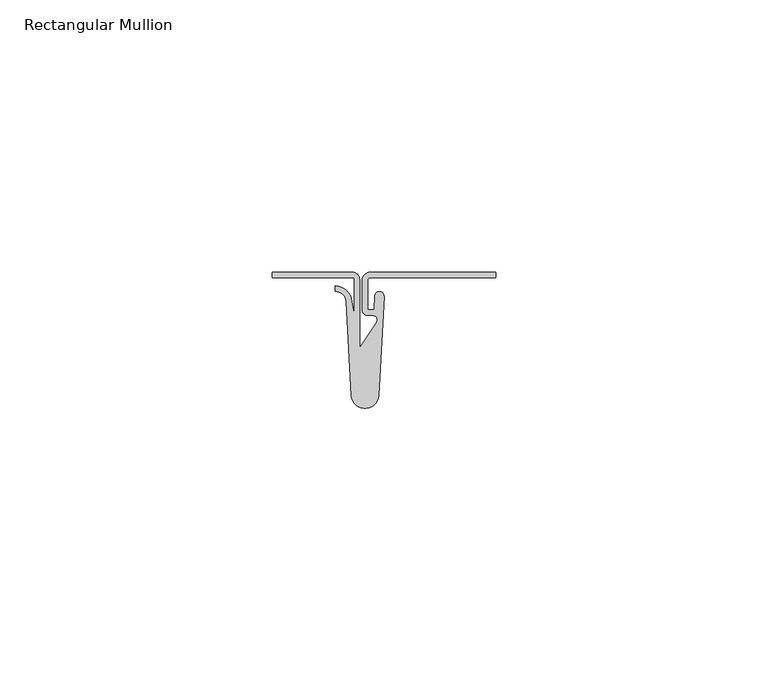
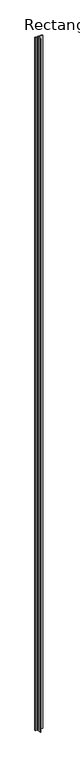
"""IFC4 building model written with IfcOpenShell, lengths in millimetres: member geometry, Rectangular Mullion : Stratco_Hiland_Tray Snaplock_25mm Rib_Underlap Tray Starter."""

from ifc_helpers import new_model, si_unit, point, frame, frame_2d, origin, place, context, project, spatial, polyline, circle_curve, trimmed, segment, composite_curve, outline, extrude, source, transform, mapped, element, save


def rectangular_mullion_c3758931(model_context):
    return source(origin(), model_context, "Body", "SweptSolid", [
        extrude(outline(composite_curve([segment(polyline([(-23.4987771, -6.8829629), (-22.2697109, -6.8829629), (-22.1929008, -4.3462781)]), True, "CONTINUOUS"), segment(trimmed(circle_curve(frame_2d((-21.3413568, -4.3720626)), 0.8519342), [point((-22.1929008, -4.3462781))], [point((-20.4898618, -4.3994153))], False, "CARTESIAN"), True, "CONTINUOUS"), segment(polyline([(-20.4898618, -4.3994153), (-21.4929799, -22.626652)]), True, "CONTINUOUS"), segment(trimmed(circle_curve(frame_2d((-24.0016605, -22.4875132)), 2.5125361), [point((-21.4929799, -22.626652))], [point((-26.5103411, -22.626652))], False, "CARTESIAN"), True, "CONTINUOUS"), segment(polyline([(-26.5103411, -22.626652), (-27.4660425, -5.3953045)]), True, "CONTINUOUS"), segment(trimmed(circle_curve(frame_2d((-29.4633003, -5.5)), 2.0), [point((-27.4660425, -5.3953045))], [point((-29.4633003, -3.5))], True, "CARTESIAN"), True, "CONTINUOUS"), segment(polyline([(-29.4633003, -3.5), (-29.4633003, -2.5)]), True, "CONTINUOUS"), segment(trimmed(circle_curve(frame_2d((-29.4633003, -5.5)), 3.0), [point((-29.4633003, -2.5))], [point((-26.4668368, -5.3543763))], False, "CARTESIAN"), True, "CONTINUOUS"), segment(polyline([(-26.4668368, -5.3543763), (-25.9762329, -7.8734664), (-25.9762329, -0.9999512), (-41.0016605, -0.9999512), (-41.0016605, 4.88e-05), (-26.303797, 4.88e-05)]), True, "CONTINUOUS"), segment(trimmed(circle_curve(frame_2d((-26.303797, -1.3275108)), 1.3275596), [point((-26.303797, 4.88e-05))], [point((-24.9762373, -1.3275288))], False, "CARTESIAN"), True, "CONTINUOUS"), segment(polyline([(-24.9762373, -1.3275288), (-24.9764076, -13.8708983), (-21.8636662, -9.1419522)]), True, "CONTINUOUS"), segment(trimmed(circle_curve(frame_2d((-22.52688, -8.705404)), 0.7939942), [point((-21.8636662, -9.1419522))], [point((-22.52688, -7.9114098))], True, "CARTESIAN"), True, "CONTINUOUS"), segment(polyline([(-22.52688, -7.9114098), (-23.4435917, -7.9114098)]), True, "CONTINUOUS"), segment(trimmed(circle_curve(frame_2d((-23.4435917, -6.8533411)), 1.0580688), [point((-23.4435917, -7.9114098))], [point((-24.4989611, -6.9288725))], False, "CARTESIAN"), True, "CONTINUOUS"), segment(polyline([(-24.4989611, -6.9288725), (-24.4989611, -1.4973006)]), True, "CONTINUOUS"), segment(trimmed(circle_curve(frame_2d((-23.0016605, -1.4973006)), 1.4973006), [point((-24.4989611, -1.4973006))], [point((-23.0016605, 0.0))], False, "CARTESIAN"), True, "CONTINUOUS"), segment(polyline([(-23.0016605, 0.0), (0.0, 0.0), (0.0, -1.0000001), (-23.0016605, -1.0000001)]), True, "CONTINUOUS"), segment(trimmed(circle_curve(frame_2d((-23.0016605, -1.4971168)), 0.4971167), [point((-23.0016605, -1.0000001))], [point((-23.4987771, -1.4971168))], True, "CARTESIAN"), True, "CONTINUOUS"), segment(polyline([(-23.4987771, -1.4971168), (-23.4987771, -6.8829629)]), True, "CONTINUOUS")], self_intersect=False)), frame((0.0, 0.0, -4000.0), z_axis=(0.0, 0.0, 1.0), x_axis=(1.0, 0.0, 0.0)), (0.0, 0.0, 1.0), 4000.0),
    ])


if __name__ == "__main__":
    model = new_model("IFC4")
    model_context = context("Model", 3, world=origin())
    ifc_project = project(units=[si_unit("LENGTHUNIT", "METRE", prefix="MILLI")], contexts=[model_context])
    site = spatial("IfcSite", under=ifc_project)
    building = spatial("IfcBuilding", under=site)
    placement = place(None, origin())
    rectangular_mullion_shape = rectangular_mullion_c3758931(model_context)
    element("IfcMember", 1, ObjectType="Rectangular Mullion : Stratco_Hiland_Tray Snaplock_25mm Rib_Underlap Tray Starter", at=placement, inside=building, context=model_context, shape_type="MappedRepresentation", body=[
        mapped(rectangular_mullion_shape, transform((0.0, 0.0, 0.0), x_axis=(1.0, 0.0, 0.0), y_axis=(0.0, 1.0, 0.0), z_axis=(0.0, 0.0, 1.0))),
    ])
    save(model, "model.ifc")
